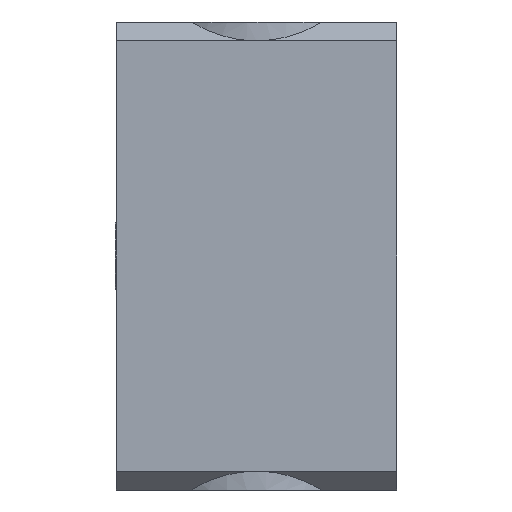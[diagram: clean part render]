
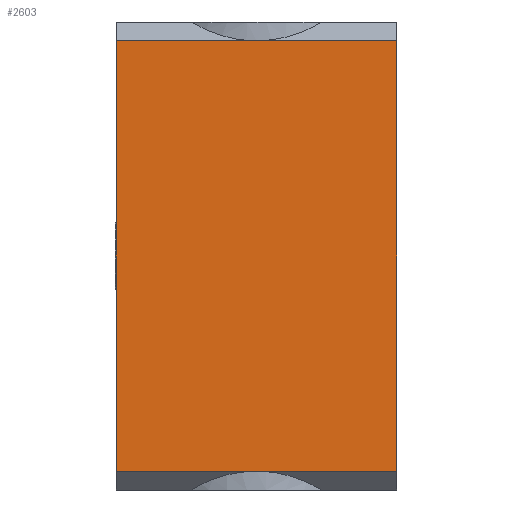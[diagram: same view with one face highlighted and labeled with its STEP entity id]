
A CAD part, left-side view. The second image highlights one B-rep face of the part: STEP entity #2603.
In plain terms, the highlighted planar face has unit normal (-1, 0, 0).
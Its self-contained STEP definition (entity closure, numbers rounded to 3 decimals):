
#465 = VECTOR ( 'NONE', #8493, 1000. ) ;
#550 = ORIENTED_EDGE ( 'NONE', *, *, #4646, .F. ) ;
#747 = EDGE_CURVE ( 'NONE', #3491, #2956, #5238, .T. ) ;
#941 = DIRECTION ( 'NONE',  ( 0., 1., 0. ) ) ;
#1036 = DIRECTION ( 'NONE',  ( 0., 0., -1. ) ) ;
#1241 = EDGE_CURVE ( 'NONE', #2956, #2080, #4092, .T. ) ;
#1412 = VERTEX_POINT ( 'NONE', #10242 ) ;
#1453 = DIRECTION ( 'NONE',  ( 0., 0., -1. ) ) ;
#1874 = AXIS2_PLACEMENT_3D ( 'NONE', #7648, #9157, #1036 ) ;
#2080 = VERTEX_POINT ( 'NONE', #4958 ) ;
#2241 = VECTOR ( 'NONE', #941, 1000. ) ;
#2519 = CARTESIAN_POINT ( 'NONE',  ( -25., -15., 23. ) ) ;
#2597 = CARTESIAN_POINT ( 'NONE',  ( -25., -15., 23. ) ) ;
#2603 = ADVANCED_FACE ( 'NONE', ( #7765 ), #2646, .F. ) ;
#2646 = PLANE ( 'NONE',  #1874 ) ;
#2956 = VERTEX_POINT ( 'NONE', #4765 ) ;
#3287 = DIRECTION ( 'NONE',  ( 0., 0., -1. ) ) ;
#3491 = VERTEX_POINT ( 'NONE', #2519 ) ;
#3509 = CARTESIAN_POINT ( 'NONE',  ( -25., -15., 23. ) ) ;
#3853 = CARTESIAN_POINT ( 'NONE',  ( -25., 15., 25. ) ) ;
#4092 = LINE ( 'NONE', #3509, #7539 ) ;
#4130 = VERTEX_POINT ( 'NONE', #5878 ) ;
#4269 = DIRECTION ( 'NONE',  ( 0., 1., 0. ) ) ;
#4391 = EDGE_LOOP ( 'NONE', ( #4791, #7866, #550, #6310, #6240, #6289 ) ) ;
#4646 = EDGE_CURVE ( 'NONE', #3491, #1412, #5776, .T. ) ;
#4702 = CARTESIAN_POINT ( 'NONE',  ( -25., 0., -23. ) ) ;
#4765 = CARTESIAN_POINT ( 'NONE',  ( -25., 0., 23. ) ) ;
#4791 = ORIENTED_EDGE ( 'NONE', *, *, #8235, .T. ) ;
#4958 = CARTESIAN_POINT ( 'NONE',  ( -25., 15., 23. ) ) ;
#5238 = LINE ( 'NONE', #2597, #2241 ) ;
#5327 = VERTEX_POINT ( 'NONE', #4702 ) ;
#5776 = LINE ( 'NONE', #8723, #8969 ) ;
#5878 = CARTESIAN_POINT ( 'NONE',  ( -25., 15., -23. ) ) ;
#6240 = ORIENTED_EDGE ( 'NONE', *, *, #1241, .T. ) ;
#6289 = ORIENTED_EDGE ( 'NONE', *, *, #8630, .T. ) ;
#6310 = ORIENTED_EDGE ( 'NONE', *, *, #747, .T. ) ;
#6609 = LINE ( 'NONE', #3853, #6986 ) ;
#6986 = VECTOR ( 'NONE', #1453, 1000. ) ;
#7405 = DIRECTION ( 'NONE',  ( 0., -1., 0. ) ) ;
#7515 = CARTESIAN_POINT ( 'NONE',  ( -25., -15., -23. ) ) ;
#7539 = VECTOR ( 'NONE', #4269, 1000. ) ;
#7648 = CARTESIAN_POINT ( 'NONE',  ( -25., -15., 25. ) ) ;
#7765 = FACE_OUTER_BOUND ( 'NONE', #4391, .T. ) ;
#7866 = ORIENTED_EDGE ( 'NONE', *, *, #9330, .T. ) ;
#8235 = EDGE_CURVE ( 'NONE', #4130, #5327, #10599, .T. ) ;
#8377 = LINE ( 'NONE', #8418, #465 ) ;
#8418 = CARTESIAN_POINT ( 'NONE',  ( -25., -15., -23. ) ) ;
#8493 = DIRECTION ( 'NONE',  ( 0., -1., 0. ) ) ;
#8630 = EDGE_CURVE ( 'NONE', #2080, #4130, #6609, .T. ) ;
#8723 = CARTESIAN_POINT ( 'NONE',  ( -25., -15., 25. ) ) ;
#8969 = VECTOR ( 'NONE', #3287, 1000. ) ;
#9157 = DIRECTION ( 'NONE',  ( 1., 0., 0. ) ) ;
#9330 = EDGE_CURVE ( 'NONE', #5327, #1412, #8377, .T. ) ;
#9956 = VECTOR ( 'NONE', #7405, 1000. ) ;
#10242 = CARTESIAN_POINT ( 'NONE',  ( -25., -15., -23. ) ) ;
#10599 = LINE ( 'NONE', #7515, #9956 ) ;
